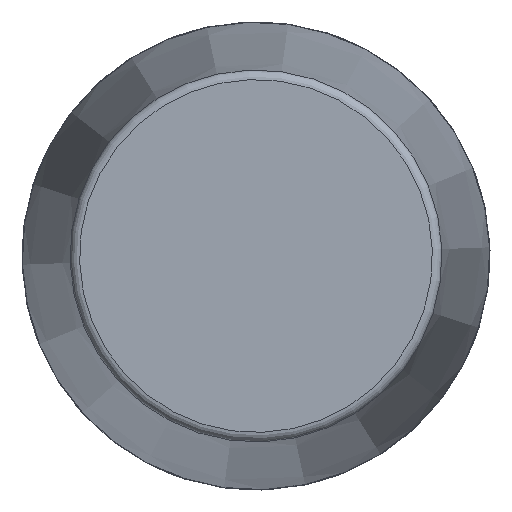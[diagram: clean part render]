
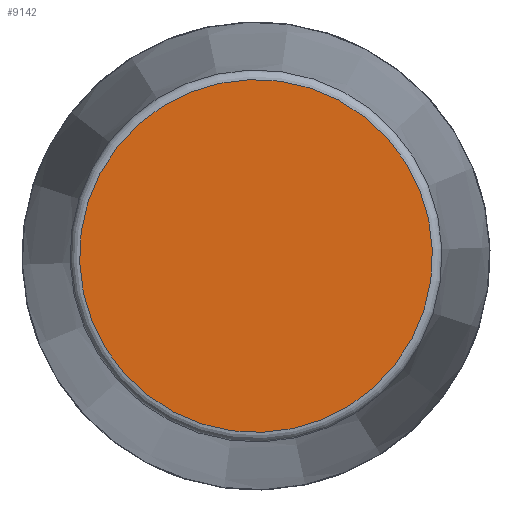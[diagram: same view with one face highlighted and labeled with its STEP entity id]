
A CAD part, front view. The second image highlights one B-rep face of the part: STEP entity #9142.
In plain terms, the highlighted planar face has unit normal (0, -1, 0) as drawn and (1, 0, 0) by its records, which use the part's own axes.
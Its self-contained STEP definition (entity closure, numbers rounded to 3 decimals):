
#260=PLANE('',#9514);
#3149=FACE_OUTER_BOUND('',#3741,.T.);
#3741=EDGE_LOOP('',(#8605));
#3782=CIRCLE('',#9510,92.326);
#4674=VERTEX_POINT('',#17249);
#5987=EDGE_CURVE('',#4674,#4674,#3782,.T.);
#8605=ORIENTED_EDGE('',*,*,#5987,.F.);
#9142=ADVANCED_FACE('',(#3149),#260,.T.);
#9510=AXIS2_PLACEMENT_3D('',#17250,#10868,#10869);
#9514=AXIS2_PLACEMENT_3D('',#17256,#10876,#10877);
#10868=DIRECTION('center_axis',(-1.,0.,0.));
#10869=DIRECTION('ref_axis',(0.,0.,
1.));
#10876=DIRECTION('center_axis',(1.,0.,0.));
#10877=DIRECTION('ref_axis',(0.,0.,-1.));
#17249=CARTESIAN_POINT('',(464.5,0.,-92.326));
#17250=CARTESIAN_POINT('Origin',(464.5,0.,0.));
#17256=CARTESIAN_POINT('Origin',(464.5,0.,0.));
